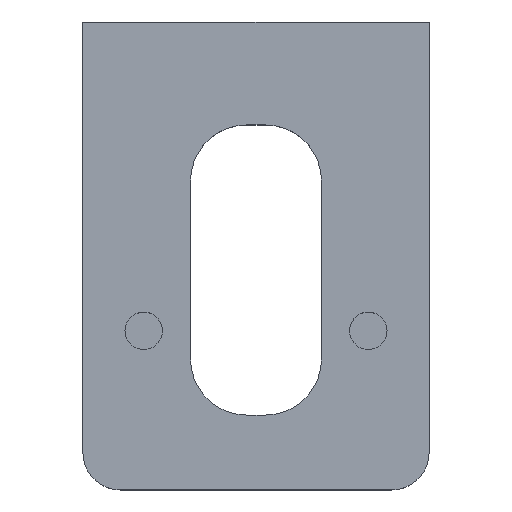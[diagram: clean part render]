
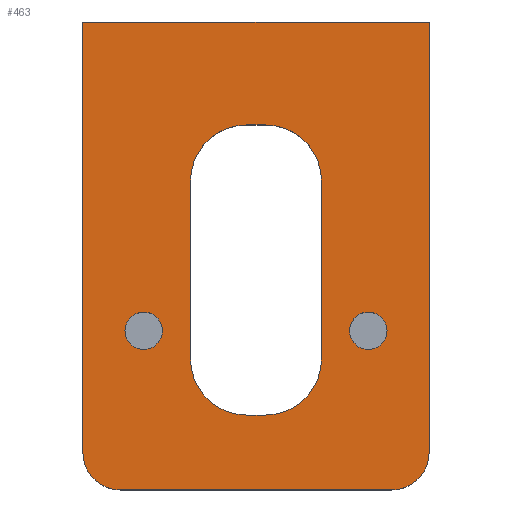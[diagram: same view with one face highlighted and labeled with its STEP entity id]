
A CAD part, top view. The second image highlights one B-rep face of the part: STEP entity #463.
In plain terms, the highlighted planar face has unit normal (0, 0, 1).
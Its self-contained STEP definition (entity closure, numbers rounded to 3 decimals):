
#70=CARTESIAN_POINT('',(16.25,8.5,0.0));
#71=VERTEX_POINT('',#70);
#72=CARTESIAN_POINT('',(15.25,8.5,0.0));
#73=DIRECTION('',(0.0,0.0,-1.0));
#74=DIRECTION('',(1.0,0.0,0.0));
#75=AXIS2_PLACEMENT_3D('',#72,#73,#74);
#76=CIRCLE('',#75,1.0);
#77=EDGE_CURVE('',#71,#71,#76,.T.);
#128=CARTESIAN_POINT('',(4.25,8.5,0.0));
#129=VERTEX_POINT('',#128);
#130=CARTESIAN_POINT('',(3.25,8.5,0.0));
#131=DIRECTION('',(0.0,0.0,-1.0));
#132=DIRECTION('',(1.0,0.0,0.0));
#133=AXIS2_PLACEMENT_3D('',#130,#131,#132);
#134=CIRCLE('',#133,1.0);
#135=EDGE_CURVE('',#129,#129,#134,.T.);
#290=CARTESIAN_POINT('',(18.5,2.,0.0));
#291=VERTEX_POINT('',#290);
#298=CARTESIAN_POINT('',(16.5,0.0,0.0));
#299=VERTEX_POINT('',#298);
#300=CARTESIAN_POINT('',(16.5,2.0,0.0));
#301=DIRECTION('',(0.0,0.0,-1.0));
#302=DIRECTION('',(0.707,-0.707,0.0));
#303=AXIS2_PLACEMENT_3D('',#300,#301,#302);
#304=CIRCLE('',#303,2.0);
#305=EDGE_CURVE('',#291,#299,#304,.T.);
#322=CARTESIAN_POINT('',(2.0,0.0,0.0));
#323=VERTEX_POINT('',#322);
#324=CARTESIAN_POINT('',(2.0,0.0,0.0));
#325=DIRECTION('',(1.0,0.0,0.0));
#326=VECTOR('',#325,14.5);
#327=LINE('',#324,#326);
#328=EDGE_CURVE('',#323,#299,#327,.T.);
#347=CARTESIAN_POINT('',(9.25,12.5,0.0));
#348=DIRECTION('',(0.0,0.0,1.0));
#349=DIRECTION('',(1.0,0.0,0.0));
#350=AXIS2_PLACEMENT_3D('',#347,#348,#349);
#351=PLANE('',#350);
#352=ORIENTED_EDGE('',*,*,#305,.F.);
#353=CARTESIAN_POINT('',(18.5,25.0,0.0));
#354=VERTEX_POINT('',#353);
#355=CARTESIAN_POINT('',(18.5,2.,0.0));
#356=DIRECTION('',(0.0,1.0,0.0));
#357=VECTOR('',#356,23.0);
#358=LINE('',#355,#357);
#359=EDGE_CURVE('',#291,#354,#358,.T.);
#360=ORIENTED_EDGE('',*,*,#359,.T.);
#361=CARTESIAN_POINT('',(0.0,25.0,0.0));
#362=VERTEX_POINT('',#361);
#363=CARTESIAN_POINT('',(18.5,25.0,0.0));
#364=DIRECTION('',(-1.0,0.0,0.0));
#365=VECTOR('',#364,18.5);
#366=LINE('',#363,#365);
#367=EDGE_CURVE('',#354,#362,#366,.T.);
#368=ORIENTED_EDGE('',*,*,#367,.T.);
#369=CARTESIAN_POINT('',(0.0,2.,0.0));
#370=VERTEX_POINT('',#369);
#371=CARTESIAN_POINT('',(0.0,25.0,0.0));
#372=DIRECTION('',(0.0,-1.0,0.0));
#373=VECTOR('',#372,23.0);
#374=LINE('',#371,#373);
#375=EDGE_CURVE('',#362,#370,#374,.T.);
#376=ORIENTED_EDGE('',*,*,#375,.T.);
#377=CARTESIAN_POINT('',(2.0,2.,0.0));
#378=DIRECTION('',(0.0,0.0,-1.));
#379=DIRECTION('',(-0.707,-0.707,0.0));
#380=AXIS2_PLACEMENT_3D('',#377,#378,#379);
#381=CIRCLE('',#380,2.0);
#382=EDGE_CURVE('',#323,#370,#381,.T.);
#383=ORIENTED_EDGE('',*,*,#382,.F.);
#384=ORIENTED_EDGE('',*,*,#328,.T.);
#385=EDGE_LOOP('',(#352,#360,#368,#376,#383,#384));
#386=FACE_OUTER_BOUND('',#385,.T.);
#387=ORIENTED_EDGE('',*,*,#77,.T.);
#388=EDGE_LOOP('',(#387));
#389=FACE_BOUND('',#388,.T.);
#390=ORIENTED_EDGE('',*,*,#135,.T.);
#391=EDGE_LOOP('',(#390));
#392=FACE_BOUND('',#391,.T.);
#393=CARTESIAN_POINT('',(5.75,7.,0.0));
#394=VERTEX_POINT('',#393);
#395=CARTESIAN_POINT('',(5.75,16.5,0.0));
#396=VERTEX_POINT('',#395);
#397=CARTESIAN_POINT('',(5.75,7.,0.0));
#398=DIRECTION('',(0.0,1.0,0.0));
#399=VECTOR('',#398,9.5);
#400=LINE('',#397,#399);
#401=EDGE_CURVE('',#394,#396,#400,.T.);
#402=ORIENTED_EDGE('',*,*,#401,.T.);
#403=CARTESIAN_POINT('',(8.75,19.5,0.0));
#404=VERTEX_POINT('',#403);
#405=CARTESIAN_POINT('',(8.75,16.5,0.0));
#406=DIRECTION('',(0.0,0.0,1.0));
#407=DIRECTION('',(-0.707,0.707,0.0));
#408=AXIS2_PLACEMENT_3D('',#405,#406,#407);
#409=CIRCLE('',#408,3.0);
#410=EDGE_CURVE('',#404,#396,#409,.T.);
#411=ORIENTED_EDGE('',*,*,#410,.F.);
#412=CARTESIAN_POINT('',(9.75,19.5,0.0));
#413=VERTEX_POINT('',#412);
#414=CARTESIAN_POINT('',(8.75,19.5,0.0));
#415=DIRECTION('',(1.0,0.0,0.0));
#416=VECTOR('',#415,1.);
#417=LINE('',#414,#416);
#418=EDGE_CURVE('',#404,#413,#417,.T.);
#419=ORIENTED_EDGE('',*,*,#418,.T.);
#420=CARTESIAN_POINT('',(12.75,16.5,0.0));
#421=VERTEX_POINT('',#420);
#422=CARTESIAN_POINT('',(9.75,16.5,0.0));
#423=DIRECTION('',(0.0,0.0,1.));
#424=DIRECTION('',(0.707,0.707,0.0));
#425=AXIS2_PLACEMENT_3D('',#422,#423,#424);
#426=CIRCLE('',#425,3.);
#427=EDGE_CURVE('',#421,#413,#426,.T.);
#428=ORIENTED_EDGE('',*,*,#427,.F.);
#429=CARTESIAN_POINT('',(12.75,7.,0.0));
#430=VERTEX_POINT('',#429);
#431=CARTESIAN_POINT('',(12.75,16.5,0.0));
#432=DIRECTION('',(0.0,-1.0,0.0));
#433=VECTOR('',#432,9.5);
#434=LINE('',#431,#433);
#435=EDGE_CURVE('',#421,#430,#434,.T.);
#436=ORIENTED_EDGE('',*,*,#435,.T.);
#437=CARTESIAN_POINT('',(9.75,4.,0.0));
#438=VERTEX_POINT('',#437);
#439=CARTESIAN_POINT('',(9.75,7.0,0.0));
#440=DIRECTION('',(0.0,0.0,1.0));
#441=DIRECTION('',(0.707,-0.707,0.0));
#442=AXIS2_PLACEMENT_3D('',#439,#440,#441);
#443=CIRCLE('',#442,3.);
#444=EDGE_CURVE('',#438,#430,#443,.T.);
#445=ORIENTED_EDGE('',*,*,#444,.F.);
#446=CARTESIAN_POINT('',(8.75,4.,0.0));
#447=VERTEX_POINT('',#446);
#448=CARTESIAN_POINT('',(9.75,4.,0.0));
#449=DIRECTION('',(-1.0,0.0,0.0));
#450=VECTOR('',#449,1.);
#451=LINE('',#448,#450);
#452=EDGE_CURVE('',#438,#447,#451,.T.);
#453=ORIENTED_EDGE('',*,*,#452,.T.);
#454=CARTESIAN_POINT('',(8.75,7.0,0.0));
#455=DIRECTION('',(0.0,0.0,1.));
#456=DIRECTION('',(-0.707,-0.707,0.0));
#457=AXIS2_PLACEMENT_3D('',#454,#455,#456);
#458=CIRCLE('',#457,3.0);
#459=EDGE_CURVE('',#394,#447,#458,.T.);
#460=ORIENTED_EDGE('',*,*,#459,.F.);
#461=EDGE_LOOP('',(#402,#411,#419,#428,#436,#445,#453,#460));
#462=FACE_BOUND('',#461,.T.);
#463=ADVANCED_FACE('',(#386,#389,#392,#462),#351,.T.);
